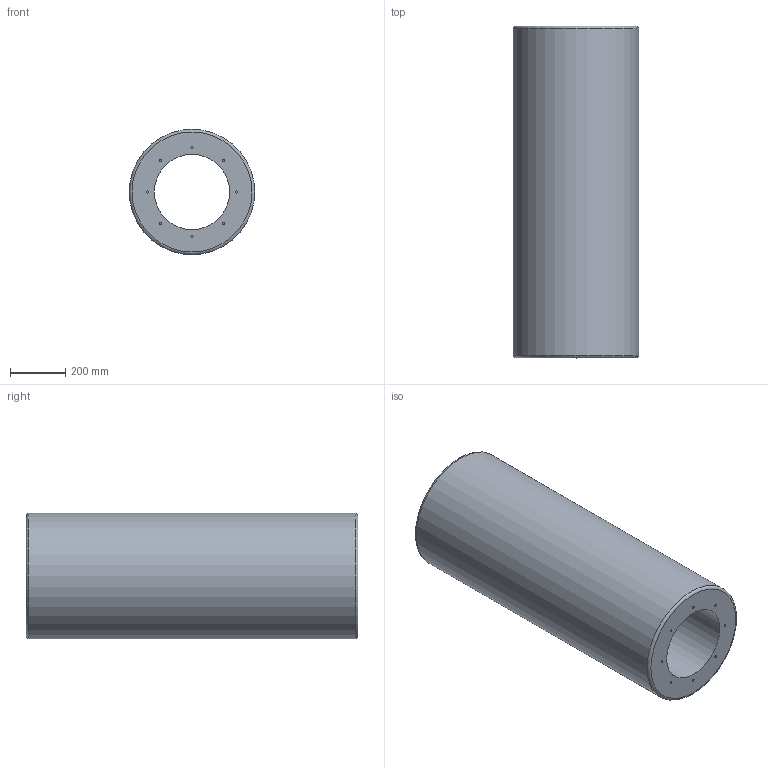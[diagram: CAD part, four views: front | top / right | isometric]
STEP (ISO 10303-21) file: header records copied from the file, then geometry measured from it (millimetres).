
FILE_DESCRIPTION(/* description */ (''),/* implementation_level */ '2;1');
FILE_NAME(/* name */ 'Z:\Output\RSD 280-1200-08742-002.stp',/* time_stamp */ '2017-06-15T22:47:49+02:00',/* author */ ('Engineering1'),/* organization */ (''),/* preprocessor_version */ 'ST-DEVELOPER v16.5',/* originating_system */ 'Autodesk Inventor 2017',/* authorisation */ '');
FILE_SCHEMA (('AUTOMOTIVE_DESIGN { 1 0 10303 214 3 1 1 }'));
Length unit declared in the file: millimetre
Products named in the file (1): RSD-1
Bounding box: 454 x 1200 x 454 mm (x, y, z)
Volume: 124462819.5 mm3; surface area: 2936196.9 mm2
Topology: 1 solids, 1 shells, 38 faces, 58 edges, 38 vertices
Faces by surface type: cylinder 18, plane 18, torus 2
Full cylindrical faces by diameter (mm): 8 x16, 272 x1, 454 x1
Entity records: 806 total; most frequent: DIRECTION 154, CARTESIAN_POINT 115, AXIS2_PLACEMENT_3D 77, EDGE_LOOP 76, ORIENTED_EDGE 76, FACE_BOUND 38, FACE_OUTER_BOUND 38, CIRCLE 38
